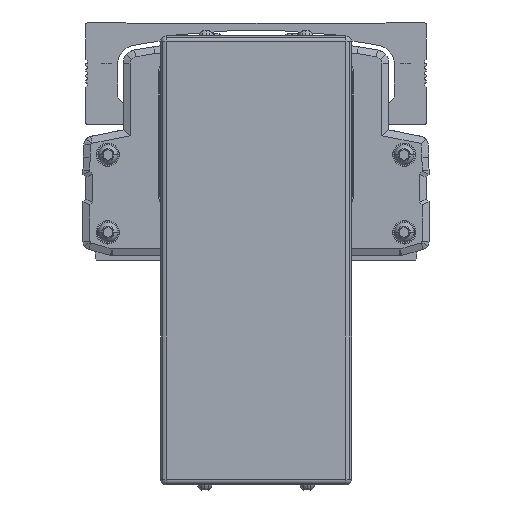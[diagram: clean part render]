
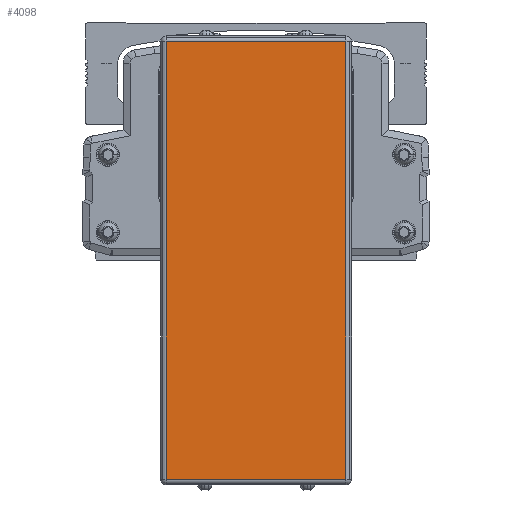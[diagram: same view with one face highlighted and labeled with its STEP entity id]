
A CAD part, front view. The second image highlights one B-rep face of the part: STEP entity #4098.
In plain terms, the highlighted planar face has unit normal (0, -1, 0).
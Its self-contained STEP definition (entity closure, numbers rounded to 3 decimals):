
#4098=ADVANCED_FACE('',(#9622),#9623,.T.);
#9622=FACE_OUTER_BOUND('',#17654,.T.);
#9623=PLANE('',#17655);
#17654=EDGE_LOOP('',(#30679,#30680,#30681,#30682));
#17655=AXIS2_PLACEMENT_3D('',#30683,#30684,#30685);
#30679=ORIENTED_EDGE('',*,*,#47930,.F.);
#30680=ORIENTED_EDGE('',*,*,#47931,.F.);
#30681=ORIENTED_EDGE('',*,*,#47932,.F.);
#30682=ORIENTED_EDGE('',*,*,#44519,.F.);
#30683=CARTESIAN_POINT('',(-299.996,-613.778,-49.1));
#30684=DIRECTION('',(0.,-1.0,0.));
#30685=DIRECTION('',(1.0,0.,0.));
#44519=EDGE_CURVE('',#53518,#53520,#53521,.T.);
#47930=EDGE_CURVE('',#58997,#53518,#59042,.T.);
#47931=EDGE_CURVE('',#59043,#58997,#59044,.T.);
#47932=EDGE_CURVE('',#53520,#59043,#59045,.T.);
#53518=VERTEX_POINT('',#66292);
#53520=VERTEX_POINT('',#66294);
#53521=LINE('',#66295,#66296);
#58997=VERTEX_POINT('',#74481);
#59042=LINE('',#74572,#74573);
#59043=VERTEX_POINT('',#74574);
#59044=LINE('',#74575,#74576);
#59045=LINE('',#74577,#74578);
#66292=CARTESIAN_POINT('',(-267.496,-613.778,-128.2));
#66294=CARTESIAN_POINT('',(-332.496,-613.778,-128.2));
#66295=CARTESIAN_POINT('',(-299.996,-613.778,-128.2));
#66296=VECTOR('',#82090,10.0);
#74481=CARTESIAN_POINT('',(-267.496,-613.778,30.));
#74572=CARTESIAN_POINT('',(-267.496,-613.778,-49.1));
#74573=VECTOR('',#86601,10.0);
#74574=CARTESIAN_POINT('',(-332.496,-613.778,30.));
#74575=CARTESIAN_POINT('',(-299.996,-613.778,30.));
#74576=VECTOR('',#86602,10.0);
#74577=CARTESIAN_POINT('',(-332.496,-613.778,-49.1));
#74578=VECTOR('',#86603,10.0);
#82090=DIRECTION('',(-1.0,0.,0.));
#86601=DIRECTION('',(0.0,0.,-1.0));
#86602=DIRECTION('',(1.0,0.,0.));
#86603=DIRECTION('',(0.0,0.,1.0));
